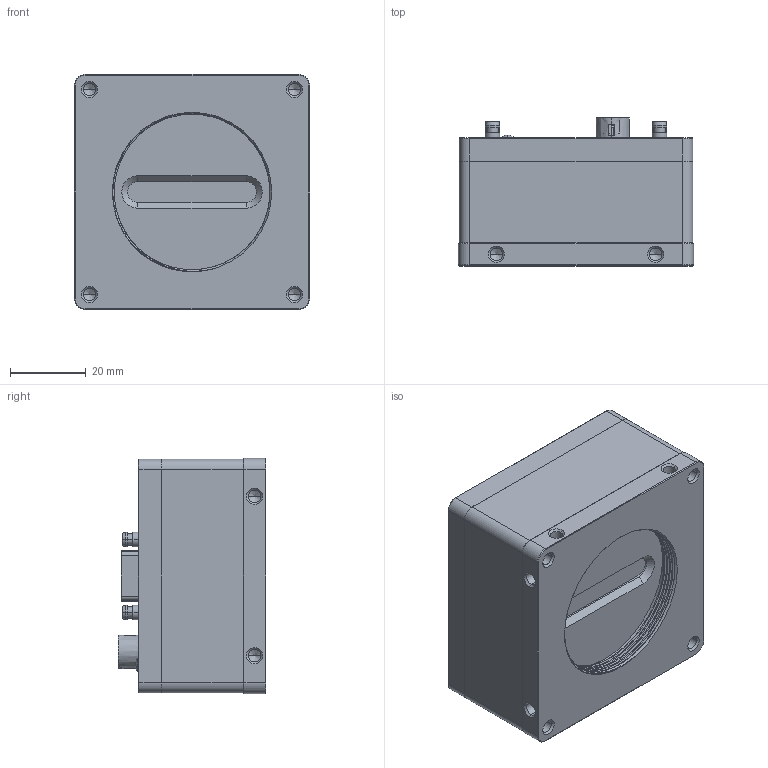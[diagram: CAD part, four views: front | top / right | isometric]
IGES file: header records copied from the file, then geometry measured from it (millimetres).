
Start section:  PTC IGES file: 0-dh3-3077-0004_sw0002.igs
Global section: file name: 0-dh3-3077-0004_sw0002.igs; native system: Creo Parametric by PTC Inc.; preprocessor: 2020184; author: 303992; organization: Unknown; date: 20231221.150029; units: millimetre
Bounding box: 62 x 38.98 x 62 mm (x, y, z)
Volume: 118749.6 mm3; surface area: 20675 mm2
Topology: 1 solids, 1 shells, 770 faces, 2008 edges, 1278 vertices
Faces by surface type: bspline 396, revolution 374
